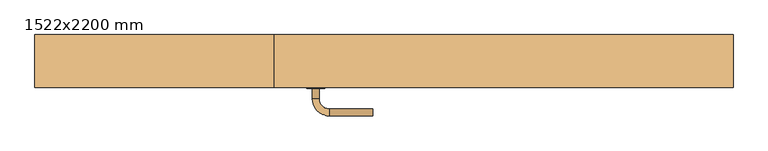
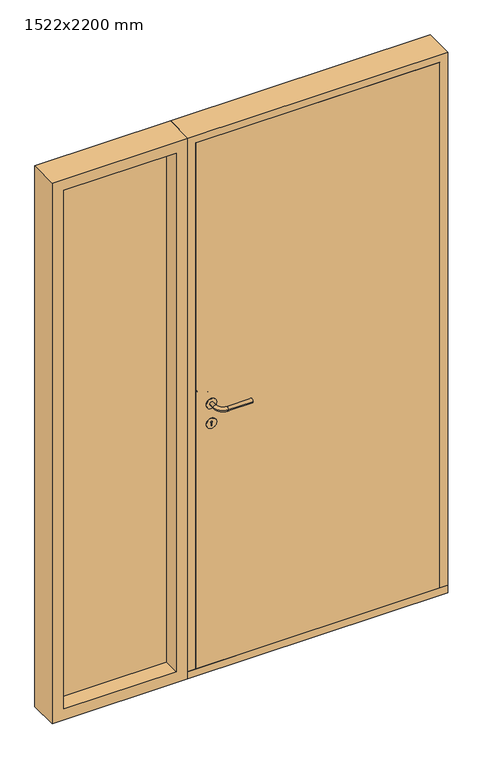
"""IFC4 building model written with IfcOpenShell, lengths in millimetres: door geometry, Ext. Door inw. Window Assembly : 1522x2200 mm."""

from ifc_helpers import new_model, si_unit, point, frame, frame_2d, origin, place, context, project, spatial, polyline, circle_curve, ellipse_curve, trimmed, segment, composite_curve, outline, extrude, faceted_brep, source, transform, mapped, element, save
from ifc_brep_helpers import plane_surface, cylinder_surface, revolved_surface, advanced_brep


def door_1522x2200_mm_245956a5(model_context):
    return source(origin(), model_context, "Body", "SolidModel", [
        extrude(outline(composite_curve([segment(trimmed(circle_curve(frame_2d((1090.0, -149.0)), 20.0), [point((1070.0, -149.0))], [point((1110.0, -149.0))], False, "CARTESIAN"), True, "CONTINUOUS"), segment(trimmed(circle_curve(frame_2d((1090.0, -149.0)), 20.0), [point((1110.0, -149.0))], [point((1070.0, -149.0))], False, "CARTESIAN"), True, "CONTINUOUS")], self_intersect=False)), frame((0.0, 73.0, 0.0), z_axis=(0.0, 1.0, 0.0), x_axis=(0.0, 0.0, 1.0)), (0.0, 0.0, 1.0), 2.0),
        advanced_brep(
        [(-156.5, 73.0, 1090.0), (-141.5, 73.0, 1090.0), (-141.5, 50.5, 1090.0), (-156.5, 50.5, 1090.0), (-119.0, 28.0, 1090.0), (-119.0, 13.0, 1090.0), (-24.0, 28.0, 1090.0), (-24.0, 13.0, 1090.0)],
        [
            (0, 1, circle_curve(frame((-149.0, 73.0, 1090.0), z_axis=(0.0, 1.0, 0.0), x_axis=(1.0, 0.0, 0.0)), 7.5)),
            (1, 0, circle_curve(frame((-149.0, 73.0, 1090.0), z_axis=(0.0, 1.0, 0.0), x_axis=(1.0, 0.0, 0.0)), 7.5)),
            (1, 2),
            (2, 3, circle_curve(frame((-149.0, 50.5, 1090.0), z_axis=(0.0, 1.0, 0.0), x_axis=(1.0, 0.0, 0.0)), 7.5)),
            (3, 0),
            (3, 2, circle_curve(frame((-149.0, 50.5, 1090.0), z_axis=(0.0, 1.0, 0.0), x_axis=(1.0, 0.0, 0.0)), 7.5)),
            (4, 5, circle_curve(frame((-119.0, 20.5, 1090.0), z_axis=(-1.0, 0.0, 0.0), x_axis=(0.0, 1.0, 0.0)), 7.5)),
            (5, 3, circle_curve(frame((-119.0, 50.5, 1090.0), z_axis=(0.0, 0.0, -1.0), x_axis=(-1.0, 0.0, 0.0)), 37.5)),
            (2, 4, circle_curve(frame((-119.0, 50.5, 1090.0), z_axis=(0.0, 0.0, 1.0), x_axis=(-1.0, 0.0, 0.0)), 22.5)),
            (5, 4, circle_curve(frame((-119.0, 20.5, 1090.0), z_axis=(-1.0, 0.0, 0.0), x_axis=(0.0, 1.0, 0.0)), 7.5)),
            (4, 6),
            (6, 7, circle_curve(frame((-24.0, 20.5, 1090.0), z_axis=(-1.0, 0.0, 0.0), x_axis=(0.0, 1.0, 0.0)), 7.5)),
            (7, 5),
            (7, 6, circle_curve(frame((-24.0, 20.5, 1090.0), z_axis=(-1.0, 0.0, 0.0), x_axis=(0.0, 1.0, 0.0)), 7.5)),
        ],
        [
            plane_surface(frame((-149.0, 73.0, 1090.0), z_axis=(0.0, 1.0, 0.0), x_axis=(0.0, 0.0, -1.0))),
            cylinder_surface(frame((-149.0, 73.0, 1090.0), z_axis=(0.0, 1.0, 0.0), x_axis=(1.0, 0.0, 0.0)), 7.5),
            revolved_surface(trimmed(ellipse_curve(frame((-149.0, 50.5, 1090.0), z_axis=(0.0, -1.0, 0.0), x_axis=(1.0, 0.0, 0.0)), 7.5, 7.5), [point((-156.5, 50.5, 1090.0))], [point((-141.5, 50.5, 1090.0))], True, "CARTESIAN"), (-119.0, 50.5, 1090.0), (0.0, 0.0, -1.0)),
            revolved_surface(trimmed(ellipse_curve(frame((-149.0, 50.5, 1090.0), z_axis=(0.0, -1.0, 0.0), x_axis=(1.0, 0.0, 0.0)), 7.5, 7.5), [point((-141.5, 50.5, 1090.0))], [point((-156.5, 50.5, 1090.0))], True, "CARTESIAN"), (-119.0, 50.5, 1090.0), (0.0, 0.0, -1.0)),
            cylinder_surface(frame((-119.0, 20.5, 1090.0), z_axis=(-1.0, 0.0, 0.0), x_axis=(0.0, 1.0, 0.0)), 7.5),
            plane_surface(frame((-24.0, 20.5, 1090.0), z_axis=(1.0, 0.0, 0.0), x_axis=(0.0, 0.0, -1.0))),
        ],
        [
            (0, [[1, 2]]),
            (1, [[3, 4, 5, -2]]),
            (1, [[-5, 6, -3, -1]]),
            (2, [[7, 8, -4, 9]]),
            (3, [[10, -9, -6, -8]]),
            (4, [[11, 12, 13, -7]]),
            (4, [[-13, 14, -11, -10]]),
            (5, [[-12, -14]]),
        ],
    ),
        extrude(outline(composite_curve([segment(trimmed(circle_curve(frame_2d((1010.0, -149.0)), 20.0), [point((990.0, -149.0))], [point((1030.0, -149.0))], False, "CARTESIAN"), True, "CONTINUOUS"), segment(trimmed(circle_curve(frame_2d((1010.0, -149.0)), 20.0), [point((1030.0, -149.0))], [point((990.0, -149.0))], False, "CARTESIAN"), True, "CONTINUOUS")], self_intersect=False), holes=[composite_curve([segment(trimmed(circle_curve(frame_2d((1015.0, -149.0)), 3.0), [point((1012.4019238, -150.5))], [point((1012.4019238, -147.5))], True, "CARTESIAN"), True, "CONTINUOUS"), segment(polyline([(1012.4019238, -147.5), (1000.0, -147.5), (1000.0, -150.5), (1012.4019238, -150.5)]), True, "CONTINUOUS")], self_intersect=False)]), frame((0.0, 73.0, 0.0), z_axis=(0.0, 1.0, 0.0), x_axis=(0.0, 0.0, 1.0)), (0.0, 0.0, 1.0), 2.0),
        extrude(outline(composite_curve([segment(trimmed(circle_curve(frame_2d((1090.0, -149.0)), 20.0), [point((1070.0, -149.0))], [point((1110.0, -149.0))], False, "CARTESIAN"), True, "CONTINUOUS"), segment(trimmed(circle_curve(frame_2d((1090.0, -149.0)), 20.0), [point((1110.0, -149.0))], [point((1070.0, -149.0))], False, "CARTESIAN"), True, "CONTINUOUS")], self_intersect=False)), frame((0.0, 125.0, 0.0), z_axis=(0.0, 1.0, 0.0), x_axis=(0.0, 0.0, 1.0)), (0.0, 0.0, 1.0), 2.0),
        advanced_brep(
        [(-156.5, 127.0, 1090.0), (-141.5, 127.0, 1090.0), (-156.5, 149.5, 1090.0), (-141.5, 149.5, 1090.0), (-119.0, 172.0, 1090.0), (-119.0, 187.0, 1090.0), (-24.0, 187.0, 1090.0), (-24.0, 172.0, 1090.0)],
        [
            (0, 1, circle_curve(frame((-149.0, 127.0, 1090.0), z_axis=(0.0, -1.0, 0.0), x_axis=(1.0, 0.0, 0.0)), 7.5)),
            (1, 0, circle_curve(frame((-149.0, 127.0, 1090.0), z_axis=(0.0, -1.0, 0.0), x_axis=(1.0, 0.0, 0.0)), 7.5)),
            (0, 2),
            (2, 3, circle_curve(frame((-149.0, 149.5, 1090.0), z_axis=(0.0, -1.0, 0.0), x_axis=(1.0, 0.0, 0.0)), 7.5)),
            (3, 1),
            (3, 2, circle_curve(frame((-149.0, 149.5, 1090.0), z_axis=(0.0, -1.0, 0.0), x_axis=(1.0, 0.0, 0.0)), 7.5)),
            (4, 3, circle_curve(frame((-119.0, 149.5, 1090.0), z_axis=(0.0, 0.0, 1.0), x_axis=(-1.0, 0.0, 0.0)), 22.5)),
            (2, 5, circle_curve(frame((-119.0, 149.5, 1090.0), z_axis=(0.0, 0.0, -1.0), x_axis=(-1.0, 0.0, 0.0)), 37.5)),
            (5, 4, circle_curve(frame((-119.0, 179.5, 1090.0), z_axis=(-1.0, 0.0, 0.0), x_axis=(0.0, -1.0, 0.0)), 7.5)),
            (4, 5, circle_curve(frame((-119.0, 179.5, 1090.0), z_axis=(-1.0, 0.0, 0.0), x_axis=(0.0, -1.0, 0.0)), 7.5)),
            (5, 6),
            (6, 7, circle_curve(frame((-24.0, 179.5, 1090.0), z_axis=(-1.0, 0.0, 0.0), x_axis=(0.0, -1.0, 0.0)), 7.5)),
            (7, 4),
            (7, 6, circle_curve(frame((-24.0, 179.5, 1090.0), z_axis=(-1.0, 0.0, 0.0), x_axis=(0.0, -1.0, 0.0)), 7.5)),
        ],
        [
            plane_surface(frame((-149.0, 127.0, 1090.0), z_axis=(0.0, -1.0, 0.0), x_axis=(0.0, 0.0, -1.0))),
            cylinder_surface(frame((-149.0, 127.0, 1090.0), z_axis=(0.0, -1.0, 0.0), x_axis=(1.0, 0.0, 0.0)), 7.5),
            revolved_surface(trimmed(ellipse_curve(frame((-149.0, 149.5, 1090.0), z_axis=(0.0, -1.0, 0.0), x_axis=(1.0, 0.0, 0.0)), 7.5, 7.5), [point((-156.5, 149.5, 1090.0))], [point((-141.5, 149.5, 1090.0))], True, "CARTESIAN"), (-119.0, 149.5, 1090.0), (0.0, 0.0, -1.0)),
            revolved_surface(trimmed(ellipse_curve(frame((-149.0, 149.5, 1090.0), z_axis=(0.0, -1.0, 0.0), x_axis=(1.0, 0.0, 0.0)), 7.5, 7.5), [point((-141.5, 149.5, 1090.0))], [point((-156.5, 149.5, 1090.0))], True, "CARTESIAN"), (-119.0, 149.5, 1090.0), (0.0, 0.0, -1.0)),
            cylinder_surface(frame((-119.0, 179.5, 1090.0), z_axis=(-1.0, 0.0, 0.0), x_axis=(0.0, -1.0, 0.0)), 7.5),
            plane_surface(frame((-24.0, 179.5, 1090.0), z_axis=(1.0, 0.0, 0.0), x_axis=(0.0, 0.0, -1.0))),
        ],
        [
            (0, [[1, 2]]),
            (1, [[-1, 3, 4, 5]]),
            (1, [[-2, -5, 6, -3]]),
            (2, [[7, -4, 8, 9]]),
            (3, [[-8, -6, -7, 10]]),
            (4, [[-9, 11, 12, 13]]),
            (4, [[-10, -13, 14, -11]]),
            (5, [[-14, -12]]),
        ],
    ),
        extrude(outline(composite_curve([segment(trimmed(circle_curve(frame_2d((1010.0, -149.0)), 20.0), [point((990.0, -149.0))], [point((1030.0, -149.0))], False, "CARTESIAN"), True, "CONTINUOUS"), segment(trimmed(circle_curve(frame_2d((1010.0, -149.0)), 20.0), [point((1030.0, -149.0))], [point((990.0, -149.0))], False, "CARTESIAN"), True, "CONTINUOUS")], self_intersect=False), holes=[composite_curve([segment(trimmed(circle_curve(frame_2d((1015.0, -149.0)), 3.0), [point((1012.4019238, -150.5))], [point((1012.4019238, -147.5))], True, "CARTESIAN"), True, "CONTINUOUS"), segment(polyline([(1012.4019238, -147.5), (1000.0, -147.5), (1000.0, -150.5), (1012.4019238, -150.5)]), True, "CONTINUOUS")], self_intersect=False)]), frame((0.0, 125.0, 0.0), z_axis=(0.0, 1.0, 0.0), x_axis=(0.0, 0.0, 1.0)), (0.0, 0.0, 1.0), 2.0),
        extrude(outline(polyline([(125.0, 45.0), (190.0, 45.0), (190.0, 0.0), (75.0, 0.0), (75.0, 30.0), (125.0, 30.0), (125.0, 45.0)])), frame((-239.0, 0.0, 0.0), z_axis=(1.0, 0.0, 0.0), x_axis=(0.0, 1.0, 0.0)), (0.0, 0.0, 1.0), 1000.0),
        faceted_brep([(-209.0, 125.0, 2170.0), (-209.0, 125.0, 45.0), (-194.0, 125.0, 45.0), (-194.0, 125.0, 2155.0), (716.0, 125.0, 2155.0), (716.0, 125.0, 45.0), (731.0, 125.0, 45.0), (731.0, 125.0, 2170.0), (-209.0, 75.0, 2170.0), (-209.0, 75.0, 30.0), (-209.0, 125.0, 30.0), (731.0, 125.0, 30.0), (761.0, 125.0, 45.0), (761.0, 125.0, 30.0), (-239.0, 125.0, 30.0), (-239.0, 125.0, 45.0), (-239.0, 75.0, 30.0), (761.0, 75.0, 30.0), (731.0, 75.0, 30.0), (-239.0, 75.0, 2200.0), (731.0, 75.0, 2170.0), (761.0, 75.0, 2200.0), (716.0, 190.0, 45.0), (761.0, 190.0, 45.0), (-239.0, 190.0, 45.0), (-194.0, 190.0, 45.0), (716.0, 190.0, 2155.0), (-194.0, 190.0, 2155.0), (-239.0, 190.0, 2200.0), (761.0, 190.0, 2200.0)], [[[0, 1, 2, 3, 4, 5, 6, 7]], [[8, 9, 10, 1, 0]], [[11, 6, 12, 13]], [[14, 15, 1, 10]], [[10, 9, 16, 14]], [[13, 17, 18, 11]], [[19, 16, 9, 8, 20, 18, 17, 21]], [[7, 6, 11, 18, 20]], [[6, 5, 22, 23, 12]], [[15, 24, 25, 2, 1]], [[26, 22, 5, 4]], [[3, 2, 25, 27]], [[27, 25, 24, 28, 29, 23, 22, 26]], [[21, 17, 13, 12, 23, 29]], [[28, 24, 15, 14, 16, 19]], [[0, 7, 20, 8]], [[3, 27, 26, 4]], [[28, 19, 21, 29]]]),
        extrude(outline(polyline([(731.0, 125.0), (731.0, 75.0), (-209.0, 75.0), (-209.0, 125.0), (731.0, 125.0)])), frame((0.0, 0.0, 30.0), z_axis=(0.0, 0.0, 1.0), x_axis=(1.0, 0.0, 0.0)), (0.0, 0.0, 1.0), 2140.0),
        extrude(outline(polyline([(-284.0, 140.0), (-716.0, 140.0), (-716.0, 162.0), (-284.0, 162.0), (-284.0, 140.0)])), frame((0.0, 0.0, 45.0), z_axis=(0.0, 0.0, 1.0), x_axis=(1.0, 0.0, 0.0)), (0.0, 0.0, 1.0), 2110.0),
        extrude(outline(polyline([(2200.0, -239.0), (2200.0, -761.0), (0.0, -761.0), (0.0, -239.0), (2200.0, -239.0)]), holes=[polyline([(45.0, -284.0), (45.0, -716.0), (2155.0, -716.0), (2155.0, -284.0), (45.0, -284.0)])]), frame((0.0, 75.0, 0.0), z_axis=(0.0, 1.0, 0.0), x_axis=(0.0, 0.0, 1.0)), (0.0, 0.0, 1.0), 115.0),
    ])


if __name__ == "__main__":
    model = new_model("IFC4")
    model_context = context("Model", 3, world=origin())
    ifc_project = project(units=[si_unit("LENGTHUNIT", "METRE", prefix="MILLI")], contexts=[model_context])
    site = spatial("IfcSite", under=ifc_project)
    building = spatial("IfcBuilding", under=site)
    placement = place(None, origin())
    door_1522x2200_mm_shape = door_1522x2200_mm_245956a5(model_context)
    element("IfcDoor", 1, ObjectType="Ext. Door inw. Window Assembly : 1522x2200 mm", at=placement, inside=building, context=model_context, shape_type="MappedRepresentation", body=[
        mapped(door_1522x2200_mm_shape, transform((0.0, 0.0, 0.0), x_axis=(1.0, 0.0, 0.0), y_axis=(0.0, 1.0, 0.0), z_axis=(0.0, 0.0, 1.0))),
    ])
    save(model, "model.ifc")
